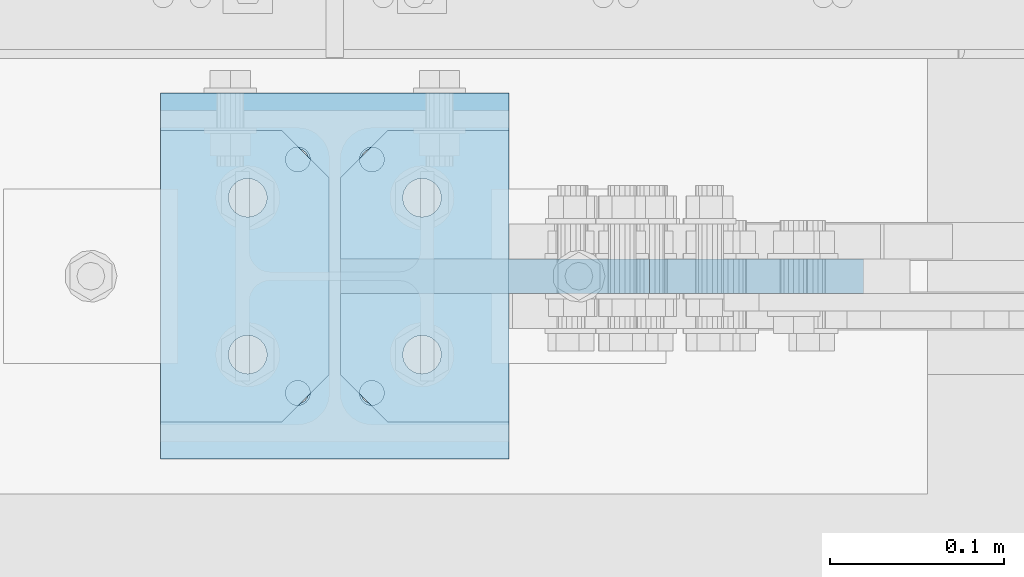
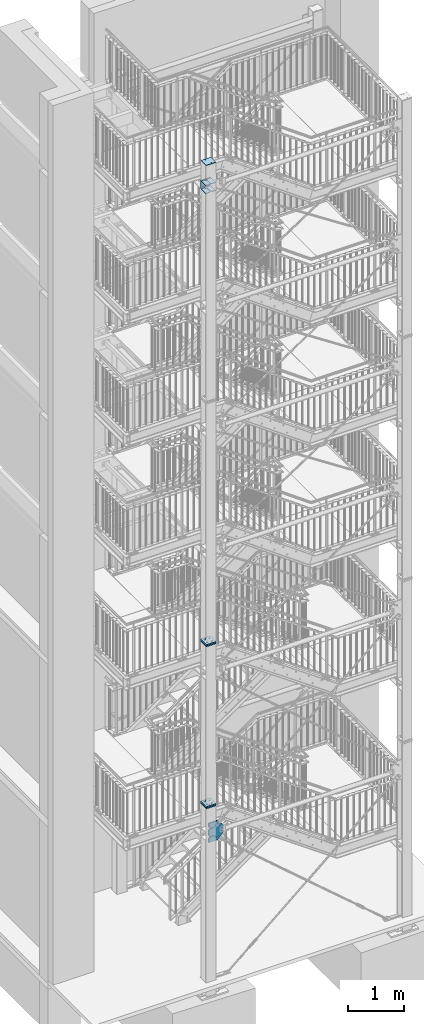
# One storey, part 152 of 831: 11 plates, 60 openings.
"""IFC2X3 building model written with IfcOpenShell, lengths in millimetres."""

from ifc_helpers import new_model, entity, si_unit, converted_unit, point, frame, frame_2d, origin, origin_with_axes, origin_2d_with_axis, place, context, project, spatial, polyline, circle_curve, line_curve, trimmed, segment, composite_curve, circle, outline, extrude, material, layer, layer_set, element, save


model = new_model("IFC2X3")

# Units and contexts
model_context = context("Model", 3, precision=1e-09, world=origin_with_axes())
ifc_project = project(units=[si_unit("LENGTHUNIT", "METRE", prefix="MILLI"), si_unit("AREAUNIT", "SQUARE_METRE"), si_unit("VOLUMEUNIT", "CUBIC_METRE"), converted_unit("PLANEANGLEUNIT", "DEGREE", entity("IfcPlaneAngleMeasure", 0.01745329), si_unit("PLANEANGLEUNIT", "RADIAN"), dimensions=[0, 0, 0, 0, 0, 0, 0])], contexts=[model_context])

# Site, building, storey
site_placement = place(None, origin_with_axes())
site = spatial("IfcSite", under=ifc_project, at=site_placement, Name="Site", CompositionType="ELEMENT")
building_placement = place(site_placement, origin_with_axes())
building = spatial("IfcBuilding", under=site, at=building_placement, Name="Struktur 1", CompositionType="ELEMENT")
storey_placement = place(building_placement, origin_with_axes())
storey = spatial("IfcBuildingStorey", under=building, at=storey_placement, Name="Default Storey", CompositionType="ELEMENT", Elevation=0.0)

# Plate, openings
ifc_material = material(Name="S235JR")
ifc_layer_1 = layer(ifc_material, 25.0)
ifc_layer_set_1 = layer_set([ifc_layer_1], Name="S235JR")
plate_1_placement = place(None, frame((4856.713402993, 4366.736971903, 4150.0), z_axis=(0.0, 0.0, -1.0), x_axis=(0.0, 1.0, 0.0)))
plate_1 = element("IfcPlate", 1, at=plate_1_placement, inside=storey, material=ifc_layer_set_1, Name="Endplate#1", ObjectType="Endplate#1", context=model_context, shape_type="SweptSolid", body=[
    extrude(outline(polyline([(-105.0, -100.0), (105.0, -100.0), (105.0, 100.0), (-105.0, 100.0), (-105.0, -100.0)])), origin_with_axes(), (0.0, 0.0, 1.0), 25.0),
])
opening_1_placement = place(plate_1_placement, frame((67.0, 21.25, -0.5), z_axis=(0.0, 0.0, 1.0), x_axis=(1.0, 0.0, 0.0)))
element("IfcOpeningElement", 2, at=opening_1_placement, cuts=plate_1, ObjectType="Opening", context=model_context, shape_type="SweptSolid", body=[
    extrude(circle(Radius=7.001, at=origin_2d_with_axis()), origin(), (0.0, 0.0, 1.0), 26.0),
])
opening_2_placement = place(plate_1_placement, frame((-67.0, 21.25, -0.5), z_axis=(0.0, 0.0, 1.0), x_axis=(1.0, 0.0, 0.0)))
element("IfcOpeningElement", 3, at=opening_2_placement, cuts=plate_1, ObjectType="Opening", context=model_context, shape_type="SweptSolid", body=[
    extrude(circle(Radius=7.001, at=origin_2d_with_axis()), origin(), (0.0, 0.0, 1.0), 26.0),
])
opening_3_placement = place(plate_1_placement, frame((-67.0, -21.25, -0.5), z_axis=(0.0, 0.0, 1.0), x_axis=(1.0, 0.0, 0.0)))
element("IfcOpeningElement", 4, at=opening_3_placement, cuts=plate_1, ObjectType="Opening", context=model_context, shape_type="SweptSolid", body=[
    extrude(circle(Radius=7.001, at=origin_2d_with_axis()), origin(), (0.0, 0.0, 1.0), 26.0),
])
opening_4_placement = place(plate_1_placement, frame((67.0, -21.25, -0.5), z_axis=(0.0, 0.0, 1.0), x_axis=(1.0, 0.0, 0.0)))
element("IfcOpeningElement", 5, at=opening_4_placement, cuts=plate_1, ObjectType="Opening", context=model_context, shape_type="SweptSolid", body=[
    extrude(circle(Radius=7.001, at=origin_2d_with_axis()), origin(), (0.0, 0.0, 1.0), 26.0),
])
opening_5_placement = place(plate_1_placement, frame((45.0, -38.999, 25.5), z_axis=(0.0, 0.0, 1.0), x_axis=(1.0, 0.0, 0.0)))
element("IfcOpeningElement", 6, at=opening_5_placement, cuts=plate_1, ObjectType="Opening", context=model_context, shape_type="SweptSolid", body=[
    extrude(circle(Radius=11.001, at=frame_2d((0.0, -11.001), x_axis=(1.0, 0.0))), origin(), (0.0, 0.0, -1.0), 26.0),
])
opening_6_placement = place(plate_1_placement, frame((-45.0, -38.999, 25.5), z_axis=(0.0, 0.0, 1.0), x_axis=(1.0, 0.0, 0.0)))
element("IfcOpeningElement", 7, at=opening_6_placement, cuts=plate_1, ObjectType="Opening", context=model_context, shape_type="SweptSolid", body=[
    extrude(circle(Radius=11.001, at=frame_2d((0.0, -11.001), x_axis=(1.0, 0.0))), origin(), (0.0, 0.0, -1.0), 26.0),
])
opening_7_placement = place(plate_1_placement, frame((45.0, 61.001, 25.5), z_axis=(0.0, 0.0, 1.0), x_axis=(1.0, 0.0, 0.0)))
element("IfcOpeningElement", 8, at=opening_7_placement, cuts=plate_1, ObjectType="Opening", context=model_context, shape_type="SweptSolid", body=[
    extrude(circle(Radius=11.001, at=frame_2d((0.0, -11.001), x_axis=(1.0, 0.0))), origin(), (0.0, 0.0, -1.0), 26.0),
])
opening_8_placement = place(plate_1_placement, frame((-45.0, 61.001, 25.5), z_axis=(0.0, 0.0, 1.0), x_axis=(1.0, 0.0, 0.0)))
element("IfcOpeningElement", 9, at=opening_8_placement, cuts=plate_1, ObjectType="Opening", context=model_context, shape_type="SweptSolid", body=[
    extrude(circle(Radius=11.001, at=frame_2d((0.0, -11.001), x_axis=(1.0, 0.0))), origin(), (0.0, 0.0, -1.0), 26.0),
])

plate_2_placement = place(None, frame((4856.713402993, 4366.736971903, 4175.0), z_axis=(0.0, 0.0, -1.0), x_axis=(0.0, 1.0, 0.0)))
plate_2 = element("IfcPlate", 10, at=plate_2_placement, inside=storey, material=ifc_layer_set_1, Name="Endplate#2", ObjectType="Endplate#2", context=model_context, shape_type="SweptSolid", body=[
    extrude(outline(polyline([(-105.0, -100.0), (105.0, -100.0), (105.0, 100.0), (-105.0, 100.0), (-105.0, -100.0)])), origin_with_axes(), (0.0, 0.0, 1.0), 25.0),
])
opening_9_placement = place(plate_2_placement, frame((67.0, 21.25, 25.5), z_axis=(0.0, 0.0, -1.0), x_axis=(-1.0, 0.0, 0.0)))
element("IfcOpeningElement", 11, at=opening_9_placement, cuts=plate_2, ObjectType="Opening", context=model_context, shape_type="SweptSolid", body=[
    extrude(circle(Radius=7.001, at=origin_2d_with_axis()), origin(), (0.0, 0.0, 1.0), 26.0),
])
opening_10_placement = place(plate_2_placement, frame((-67.0, 21.25, 25.5), z_axis=(0.0, 0.0, -1.0), x_axis=(-1.0, 0.0, 0.0)))
element("IfcOpeningElement", 12, at=opening_10_placement, cuts=plate_2, ObjectType="Opening", context=model_context, shape_type="SweptSolid", body=[
    extrude(circle(Radius=7.001, at=origin_2d_with_axis()), origin(), (0.0, 0.0, 1.0), 26.0),
])
opening_11_placement = place(plate_2_placement, frame((-67.0, -21.25, 25.5), z_axis=(0.0, 0.0, -1.0), x_axis=(-1.0, 0.0, 0.0)))
element("IfcOpeningElement", 13, at=opening_11_placement, cuts=plate_2, ObjectType="Opening", context=model_context, shape_type="SweptSolid", body=[
    extrude(circle(Radius=7.001, at=origin_2d_with_axis()), origin(), (0.0, 0.0, 1.0), 26.0),
])
opening_12_placement = place(plate_2_placement, frame((67.0, -21.25, 25.5), z_axis=(0.0, 0.0, -1.0), x_axis=(-1.0, 0.0, 0.0)))
element("IfcOpeningElement", 14, at=opening_12_placement, cuts=plate_2, ObjectType="Opening", context=model_context, shape_type="SweptSolid", body=[
    extrude(circle(Radius=7.001, at=origin_2d_with_axis()), origin(), (0.0, 0.0, 1.0), 26.0),
])
opening_13_placement = place(plate_2_placement, frame((45.0, 61.001, 25.5), z_axis=(0.0, 0.0, 1.0), x_axis=(1.0, 0.0, 0.0)))
element("IfcOpeningElement", 15, at=opening_13_placement, cuts=plate_2, ObjectType="Opening", context=model_context, shape_type="SweptSolid", body=[
    extrude(circle(Radius=11.001, at=frame_2d((0.0, -11.001), x_axis=(1.0, 0.0))), origin(), (0.0, 0.0, -1.0), 26.0),
])
opening_14_placement = place(plate_2_placement, frame((-45.0, 61.001, 25.5), z_axis=(0.0, 0.0, 1.0), x_axis=(1.0, 0.0, 0.0)))
element("IfcOpeningElement", 16, at=opening_14_placement, cuts=plate_2, ObjectType="Opening", context=model_context, shape_type="SweptSolid", body=[
    extrude(circle(Radius=11.001, at=frame_2d((0.0, -11.001), x_axis=(1.0, 0.0))), origin(), (0.0, 0.0, -1.0), 26.0),
])
opening_15_placement = place(plate_2_placement, frame((45.0, -38.999, 25.5), z_axis=(0.0, 0.0, 1.0), x_axis=(1.0, 0.0, 0.0)))
element("IfcOpeningElement", 17, at=opening_15_placement, cuts=plate_2, ObjectType="Opening", context=model_context, shape_type="SweptSolid", body=[
    extrude(circle(Radius=11.001, at=frame_2d((0.0, -11.001), x_axis=(1.0, 0.0))), origin(), (0.0, 0.0, -1.0), 26.0),
])
opening_16_placement = place(plate_2_placement, frame((-45.0, -38.999, 25.5), z_axis=(0.0, 0.0, 1.0), x_axis=(1.0, 0.0, 0.0)))
element("IfcOpeningElement", 18, at=opening_16_placement, cuts=plate_2, ObjectType="Opening", context=model_context, shape_type="SweptSolid", body=[
    extrude(circle(Radius=11.001, at=frame_2d((0.0, -11.001), x_axis=(1.0, 0.0))), origin(), (0.0, 0.0, -1.0), 26.0),
])

plate_3_placement = place(None, frame((4856.713402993, 4366.736971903, 7650.0), z_axis=(0.0, 0.0, -1.0), x_axis=(0.0, 1.0, 0.0)))
plate_3 = element("IfcPlate", 19, at=plate_3_placement, inside=storey, material=ifc_layer_set_1, Name="Endplate#1", ObjectType="Endplate#1", context=model_context, shape_type="SweptSolid", body=[
    extrude(outline(polyline([(-105.0, -100.0), (105.0, -100.0), (105.0, 100.0), (-105.0, 100.0), (-105.0, -100.0)])), origin_with_axes(), (0.0, 0.0, 1.0), 25.0),
])
opening_17_placement = place(plate_3_placement, frame((67.0, 21.25, -0.5), z_axis=(0.0, 0.0, 1.0), x_axis=(1.0, 0.0, 0.0)))
element("IfcOpeningElement", 20, at=opening_17_placement, cuts=plate_3, ObjectType="Opening", context=model_context, shape_type="SweptSolid", body=[
    extrude(circle(Radius=7.001, at=origin_2d_with_axis()), origin(), (0.0, 0.0, 1.0), 26.0),
])
opening_18_placement = place(plate_3_placement, frame((-67.0, 21.25, -0.5), z_axis=(0.0, 0.0, 1.0), x_axis=(1.0, 0.0, 0.0)))
element("IfcOpeningElement", 21, at=opening_18_placement, cuts=plate_3, ObjectType="Opening", context=model_context, shape_type="SweptSolid", body=[
    extrude(circle(Radius=7.001, at=origin_2d_with_axis()), origin(), (0.0, 0.0, 1.0), 26.0),
])
opening_19_placement = place(plate_3_placement, frame((-67.0, -21.25, -0.5), z_axis=(0.0, 0.0, 1.0), x_axis=(1.0, 0.0, 0.0)))
element("IfcOpeningElement", 22, at=opening_19_placement, cuts=plate_3, ObjectType="Opening", context=model_context, shape_type="SweptSolid", body=[
    extrude(circle(Radius=7.001, at=origin_2d_with_axis()), origin(), (0.0, 0.0, 1.0), 26.0),
])
opening_20_placement = place(plate_3_placement, frame((67.0, -21.25, -0.5), z_axis=(0.0, 0.0, 1.0), x_axis=(1.0, 0.0, 0.0)))
element("IfcOpeningElement", 23, at=opening_20_placement, cuts=plate_3, ObjectType="Opening", context=model_context, shape_type="SweptSolid", body=[
    extrude(circle(Radius=7.001, at=origin_2d_with_axis()), origin(), (0.0, 0.0, 1.0), 26.0),
])
opening_21_placement = place(plate_3_placement, frame((45.0, 61.001, 25.5), z_axis=(0.0, 0.0, 1.0), x_axis=(1.0, 0.0, 0.0)))
element("IfcOpeningElement", 24, at=opening_21_placement, cuts=plate_3, ObjectType="Opening", context=model_context, shape_type="SweptSolid", body=[
    extrude(circle(Radius=11.001, at=frame_2d((0.0, -11.001), x_axis=(1.0, 0.0))), origin(), (0.0, 0.0, -1.0), 26.0),
])
opening_22_placement = place(plate_3_placement, frame((-45.0, 61.001, 25.5), z_axis=(0.0, 0.0, 1.0), x_axis=(1.0, 0.0, 0.0)))
element("IfcOpeningElement", 25, at=opening_22_placement, cuts=plate_3, ObjectType="Opening", context=model_context, shape_type="SweptSolid", body=[
    extrude(circle(Radius=11.001, at=frame_2d((0.0, -11.001), x_axis=(1.0, 0.0))), origin(), (0.0, 0.0, -1.0), 26.0),
])
opening_23_placement = place(plate_3_placement, frame((45.0, -38.999, 25.5), z_axis=(0.0, 0.0, 1.0), x_axis=(1.0, 0.0, 0.0)))
element("IfcOpeningElement", 26, at=opening_23_placement, cuts=plate_3, ObjectType="Opening", context=model_context, shape_type="SweptSolid", body=[
    extrude(circle(Radius=11.001, at=frame_2d((0.0, -11.001), x_axis=(1.0, 0.0))), origin(), (0.0, 0.0, -1.0), 26.0),
])
opening_24_placement = place(plate_3_placement, frame((-45.0, -38.999, 25.5), z_axis=(0.0, 0.0, 1.0), x_axis=(1.0, 0.0, 0.0)))
element("IfcOpeningElement", 27, at=opening_24_placement, cuts=plate_3, ObjectType="Opening", context=model_context, shape_type="SweptSolid", body=[
    extrude(circle(Radius=11.001, at=frame_2d((0.0, -11.001), x_axis=(1.0, 0.0))), origin(), (0.0, 0.0, -1.0), 26.0),
])

plate_4_placement = place(None, frame((4856.713402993, 4366.736971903, 7675.0), z_axis=(0.0, 0.0, -1.0), x_axis=(0.0, 1.0, 0.0)))
plate_4 = element("IfcPlate", 28, at=plate_4_placement, inside=storey, material=ifc_layer_set_1, Name="Endplate#2", ObjectType="Endplate#2", context=model_context, shape_type="SweptSolid", body=[
    extrude(outline(polyline([(-105.0, -100.0), (105.0, -100.0), (105.0, 100.0), (-105.0, 100.0), (-105.0, -100.0)])), origin_with_axes(), (0.0, 0.0, 1.0), 25.0),
])
opening_25_placement = place(plate_4_placement, frame((67.0, 21.25, 25.5), z_axis=(0.0, 0.0, -1.0), x_axis=(-1.0, 0.0, 0.0)))
element("IfcOpeningElement", 29, at=opening_25_placement, cuts=plate_4, ObjectType="Opening", context=model_context, shape_type="SweptSolid", body=[
    extrude(circle(Radius=7.001, at=origin_2d_with_axis()), origin(), (0.0, 0.0, 1.0), 26.0),
])
opening_26_placement = place(plate_4_placement, frame((-67.0, 21.25, 25.5), z_axis=(0.0, 0.0, -1.0), x_axis=(-1.0, 0.0, 0.0)))
element("IfcOpeningElement", 30, at=opening_26_placement, cuts=plate_4, ObjectType="Opening", context=model_context, shape_type="SweptSolid", body=[
    extrude(circle(Radius=7.001, at=origin_2d_with_axis()), origin(), (0.0, 0.0, 1.0), 26.0),
])
opening_27_placement = place(plate_4_placement, frame((-67.0, -21.25, 25.5), z_axis=(0.0, 0.0, -1.0), x_axis=(-1.0, 0.0, 0.0)))
element("IfcOpeningElement", 31, at=opening_27_placement, cuts=plate_4, ObjectType="Opening", context=model_context, shape_type="SweptSolid", body=[
    extrude(circle(Radius=7.001, at=origin_2d_with_axis()), origin(), (0.0, 0.0, 1.0), 26.0),
])
opening_28_placement = place(plate_4_placement, frame((67.0, -21.25, 25.5), z_axis=(0.0, 0.0, -1.0), x_axis=(-1.0, 0.0, 0.0)))
element("IfcOpeningElement", 32, at=opening_28_placement, cuts=plate_4, ObjectType="Opening", context=model_context, shape_type="SweptSolid", body=[
    extrude(circle(Radius=7.001, at=origin_2d_with_axis()), origin(), (0.0, 0.0, 1.0), 26.0),
])
opening_29_placement = place(plate_4_placement, frame((45.0, 61.001, 25.5), z_axis=(0.0, 0.0, 1.0), x_axis=(1.0, 0.0, 0.0)))
element("IfcOpeningElement", 33, at=opening_29_placement, cuts=plate_4, ObjectType="Opening", context=model_context, shape_type="SweptSolid", body=[
    extrude(circle(Radius=11.001, at=frame_2d((0.0, -11.001), x_axis=(1.0, 0.0))), origin(), (0.0, 0.0, -1.0), 26.0),
])
opening_30_placement = place(plate_4_placement, frame((-45.0, 61.001, 25.5), z_axis=(0.0, 0.0, 1.0), x_axis=(1.0, 0.0, 0.0)))
element("IfcOpeningElement", 34, at=opening_30_placement, cuts=plate_4, ObjectType="Opening", context=model_context, shape_type="SweptSolid", body=[
    extrude(circle(Radius=11.001, at=frame_2d((0.0, -11.001), x_axis=(1.0, 0.0))), origin(), (0.0, 0.0, -1.0), 26.0),
])
opening_31_placement = place(plate_4_placement, frame((45.0, -38.999, 25.5), z_axis=(0.0, 0.0, 1.0), x_axis=(1.0, 0.0, 0.0)))
element("IfcOpeningElement", 35, at=opening_31_placement, cuts=plate_4, ObjectType="Opening", context=model_context, shape_type="SweptSolid", body=[
    extrude(circle(Radius=11.001, at=frame_2d((0.0, -11.001), x_axis=(1.0, 0.0))), origin(), (0.0, 0.0, -1.0), 26.0),
])
opening_32_placement = place(plate_4_placement, frame((-45.0, -38.999, 25.5), z_axis=(0.0, 0.0, 1.0), x_axis=(1.0, 0.0, 0.0)))
element("IfcOpeningElement", 36, at=opening_32_placement, cuts=plate_4, ObjectType="Opening", context=model_context, shape_type="SweptSolid", body=[
    extrude(circle(Radius=11.001, at=frame_2d((0.0, -11.001), x_axis=(1.0, 0.0))), origin(), (0.0, 0.0, -1.0), 26.0),
])

ifc_layer_2 = layer(ifc_material, 10.0)
ifc_layer_set_2 = layer_set([ifc_layer_2], Name="S235JR")
plate_5_placement = place(None, frame((4856.713402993, 4471.736971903, 17498.999999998), z_axis=(0.0, -1.0, 0.0), x_axis=(0.0, 0.0, -1.0)))
plate_5 = element("IfcPlate", 37, at=plate_5_placement, inside=storey, material=ifc_layer_set_2, Name="Endplate", ObjectType="Endplate", context=model_context, shape_type="SweptSolid", body=[
    extrude(outline(polyline([(-90.0, -100.0), (90.0, -100.0), (90.0, 100.0), (-90.0, 100.0), (-90.0, -100.0)])), origin_with_axes(), (0.0, 0.0, 1.0), 10.0),
])
opening_33_placement = place(plate_5_placement, frame((-67.0, -21.25, 10.5), z_axis=(0.0, 0.0, -1.0), x_axis=(1.0, 0.0, 0.0)))
element("IfcOpeningElement", 38, at=opening_33_placement, cuts=plate_5, ObjectType="Opening", context=model_context, shape_type="SweptSolid", body=[
    extrude(circle(Radius=6.001, at=origin_2d_with_axis()), origin(), (0.0, 0.0, 1.0), 11.0),
])
opening_34_placement = place(plate_5_placement, frame((67.0, -21.25, 10.5), z_axis=(0.0, 0.0, -1.0), x_axis=(1.0, 0.0, 0.0)))
element("IfcOpeningElement", 39, at=opening_34_placement, cuts=plate_5, ObjectType="Opening", context=model_context, shape_type="SweptSolid", body=[
    extrude(circle(Radius=6.001, at=origin_2d_with_axis()), origin(), (0.0, 0.0, 1.0), 11.0),
])
opening_35_placement = place(plate_5_placement, frame((67.0, 21.25, 10.5), z_axis=(0.0, 0.0, -1.0), x_axis=(1.0, 0.0, 0.0)))
element("IfcOpeningElement", 40, at=opening_35_placement, cuts=plate_5, ObjectType="Opening", context=model_context, shape_type="SweptSolid", body=[
    extrude(circle(Radius=6.001, at=origin_2d_with_axis()), origin(), (0.0, 0.0, 1.0), 11.0),
])
opening_36_placement = place(plate_5_placement, frame((-67.0, 21.25, 10.5), z_axis=(0.0, 0.0, -1.0), x_axis=(1.0, 0.0, 0.0)))
element("IfcOpeningElement", 41, at=opening_36_placement, cuts=plate_5, ObjectType="Opening", context=model_context, shape_type="SweptSolid", body=[
    extrude(circle(Radius=6.001, at=origin_2d_with_axis()), origin(), (0.0, 0.0, 1.0), 11.0),
])
opening_37_placement = place(plate_5_placement, frame((-45.0, -60.0, 10.5), z_axis=(0.0, 0.0, -1.0), x_axis=(0.0, -1.0, 0.0)))
element("IfcOpeningElement", 42, at=opening_37_placement, cuts=plate_5, ObjectType="Opening", context=model_context, shape_type="SweptSolid", body=[
    extrude(circle(Radius=9.001, at=origin_2d_with_axis()), origin(), (0.0, 0.0, 1.0), 11.0),
])
opening_38_placement = place(plate_5_placement, frame((45.0, 60.0, 10.5), z_axis=(0.0, 0.0, -1.0), x_axis=(0.0, 1.0, 0.0)))
element("IfcOpeningElement", 43, at=opening_38_placement, cuts=plate_5, ObjectType="Opening", context=model_context, shape_type="SweptSolid", body=[
    extrude(circle(Radius=9.001, at=origin_2d_with_axis()), origin(), (0.0, 0.0, 1.0), 11.0),
])
opening_39_placement = place(plate_5_placement, frame((45.0, -60.0, 10.5), z_axis=(0.0, 0.0, -1.0), x_axis=(0.0, -1.0, 0.0)))
element("IfcOpeningElement", 44, at=opening_39_placement, cuts=plate_5, ObjectType="Opening", context=model_context, shape_type="SweptSolid", body=[
    extrude(circle(Radius=9.001, at=origin_2d_with_axis()), origin(), (0.0, 0.0, 1.0), 11.0),
])
opening_40_placement = place(plate_5_placement, frame((-45.0, 60.0, 10.5), z_axis=(0.0, 0.0, -1.0), x_axis=(0.0, 1.0, 0.0)))
element("IfcOpeningElement", 45, at=opening_40_placement, cuts=plate_5, ObjectType="Opening", context=model_context, shape_type="SweptSolid", body=[
    extrude(circle(Radius=9.001, at=origin_2d_with_axis()), origin(), (0.0, 0.0, 1.0), 11.0),
])

plate_6_placement = place(None, frame((4956.713402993, 4450.236971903, 17573.999999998), z_axis=(0.0, 0.0, 1.0), x_axis=(-1.0, 0.0, 0.0)))
plate_6 = element("IfcPlate", 46, at=plate_6_placement, inside=storey, material=ifc_layer_set_2, Name="Stiffener#1", ObjectType="Stiffener#1", context=model_context, shape_type="SweptSolid", body=[
    extrude(outline(polyline([(0.0, 0.0), (96.75, 0.0), (96.75, 167.0), (0.0, 167.0), (0.0, 0.0)])), origin_with_axes(), (0.0, 0.0, 1.0), 10.0),
])
opening_41_placement = place(plate_6_placement, frame((0.0, 0.0, -0.01), z_axis=(0.0, 0.0, 1.0), x_axis=(1.0, 0.0, 0.0)))
element("IfcOpeningElement", 47, at=opening_41_placement, cuts=plate_6, ObjectType="Opening", context=model_context, shape_type="SweptSolid", body=[
    extrude(outline(polyline([(96.75, 167.0), (69.75, 167.0), (96.75, 140.0), (96.75, 167.0)])), origin(), (0.0, 0.0, 1.0), 10.02),
])
opening_42_placement = place(plate_6_placement, frame((0.0, 0.0, -0.01), z_axis=(0.0, 0.0, 1.0), x_axis=(1.0, 0.0, 0.0)))
element("IfcOpeningElement", 48, at=opening_42_placement, cuts=plate_6, ObjectType="Opening", context=model_context, shape_type="SweptSolid", body=[
    extrude(outline(polyline([(96.75, 0.0), (96.75, 27.0), (69.75, 0.0), (96.75, 0.0)])), origin(), (0.0, 0.0, 1.0), 10.02),
])

plate_7_placement = place(None, frame((4853.463402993, 4450.236971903, 17573.999999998), z_axis=(0.0, 0.0, 1.0), x_axis=(-1.0, 0.0, 0.0)))
plate_7 = element("IfcPlate", 49, at=plate_7_placement, inside=storey, material=ifc_layer_set_2, Name="Stiffener#2", ObjectType="Stiffener#2", context=model_context, shape_type="SweptSolid", body=[
    extrude(outline(polyline([(0.0, 0.0), (96.75, 0.0), (96.75, 167.0), (0.0, 167.0), (0.0, 0.0)])), origin_with_axes(), (0.0, 0.0, 1.0), 10.0),
])
opening_43_placement = place(plate_7_placement, frame((0.0, 0.0, -0.01), z_axis=(0.0, 0.0, 1.0), x_axis=(1.0, 0.0, 0.0)))
element("IfcOpeningElement", 50, at=opening_43_placement, cuts=plate_7, ObjectType="Opening", context=model_context, shape_type="SweptSolid", body=[
    extrude(outline(polyline([(0.0, 167.0), (0.0, 140.0), (27.0, 167.0), (0.0, 167.0)])), origin(), (0.0, 0.0, 1.0), 10.02),
])
opening_44_placement = place(plate_7_placement, frame((0.0, 0.0, -0.01), z_axis=(0.0, 0.0, 1.0), x_axis=(1.0, 0.0, 0.0)))
element("IfcOpeningElement", 51, at=opening_44_placement, cuts=plate_7, ObjectType="Opening", context=model_context, shape_type="SweptSolid", body=[
    extrude(outline(polyline([(0.0, 0.0), (27.0, 0.0), (0.0, 27.0), (0.0, 0.0)])), origin(), (0.0, 0.0, 1.0), 10.02),
])

plate_8_placement = place(None, frame((4859.963402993, 4450.236971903, 17413.999999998), z_axis=(0.0, 0.0, -1.0), x_axis=(1.0, 0.0, 0.0)))
plate_8 = element("IfcPlate", 52, at=plate_8_placement, inside=storey, material=ifc_layer_set_2, Name="Stiffener#3", ObjectType="Stiffener#3", context=model_context, shape_type="SweptSolid", body=[
    extrude(outline(polyline([(0.0, 0.0), (96.75, 0.0), (96.75, 167.0), (0.0, 167.0), (0.0, 0.0)])), origin_with_axes(), (0.0, 0.0, 1.0), 10.0),
])
opening_45_placement = place(plate_8_placement, frame((0.0, 0.0, -0.01), z_axis=(0.0, 0.0, 1.0), x_axis=(1.0, 0.0, 0.0)))
element("IfcOpeningElement", 53, at=opening_45_placement, cuts=plate_8, ObjectType="Opening", context=model_context, shape_type="SweptSolid", body=[
    extrude(outline(polyline([(0.0, 167.0), (0.0, 140.0), (27.0, 167.0), (0.0, 167.0)])), origin(), (0.0, 0.0, 1.0), 10.02),
])
opening_46_placement = place(plate_8_placement, frame((0.0, 0.0, -0.01), z_axis=(0.0, 0.0, 1.0), x_axis=(1.0, 0.0, 0.0)))
element("IfcOpeningElement", 54, at=opening_46_placement, cuts=plate_8, ObjectType="Opening", context=model_context, shape_type="SweptSolid", body=[
    extrude(outline(polyline([(0.0, 0.0), (27.0, 0.0), (0.0, 27.0), (0.0, 0.0)])), origin(), (0.0, 0.0, 1.0), 10.02),
])

plate_9_placement = place(None, frame((4756.713402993, 4450.236971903, 17413.999999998), z_axis=(0.0, 0.0, -1.0), x_axis=(1.0, 0.0, 0.0)))
plate_9 = element("IfcPlate", 55, at=plate_9_placement, inside=storey, material=ifc_layer_set_2, Name="Stiffener#4", ObjectType="Stiffener#4", context=model_context, shape_type="SweptSolid", body=[
    extrude(outline(polyline([(0.0, 0.0), (96.75, 0.0), (96.75, 167.0), (0.0, 167.0), (0.0, 0.0)])), origin_with_axes(), (0.0, 0.0, 1.0), 10.0),
])
opening_47_placement = place(plate_9_placement, frame((0.0, 0.0, -0.01), z_axis=(0.0, 0.0, 1.0), x_axis=(1.0, 0.0, 0.0)))
element("IfcOpeningElement", 56, at=opening_47_placement, cuts=plate_9, ObjectType="Opening", context=model_context, shape_type="SweptSolid", body=[
    extrude(outline(polyline([(96.75, 167.0), (69.75, 167.0), (96.75, 140.0), (96.75, 167.0)])), origin(), (0.0, 0.0, 1.0), 10.02),
])
opening_48_placement = place(plate_9_placement, frame((0.0, 0.0, -0.01), z_axis=(0.0, 0.0, 1.0), x_axis=(1.0, 0.0, 0.0)))
element("IfcOpeningElement", 57, at=opening_48_placement, cuts=plate_9, ObjectType="Opening", context=model_context, shape_type="SweptSolid", body=[
    extrude(outline(polyline([(96.75, 0.0), (96.75, 27.0), (69.75, 0.0), (96.75, 0.0)])), origin(), (0.0, 0.0, 1.0), 10.02),
])

plate_10_placement = place(None, frame((4856.713402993, 4366.736971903, 18013.999999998), z_axis=(0.0, 0.0, 1.0), x_axis=(1.0, 0.0, 0.0)))
plate_10 = element("IfcPlate", 58, at=plate_10_placement, inside=storey, material=ifc_layer_set_2, Name="-", ObjectType="-", context=model_context, shape_type="SweptSolid", body=[
    extrude(outline(polyline([(-100.0, -90.0), (100.0, -90.0), (100.0, 90.0), (-100.0, 90.0), (-100.0, -90.0)])), origin_with_axes(), (0.0, 0.0, 1.0), 10.0),
])
opening_49_placement = place(plate_10_placement, frame((21.25, 67.0, 10.5), z_axis=(0.0, 0.0, -1.0), x_axis=(0.0, 1.0, 0.0)))
element("IfcOpeningElement", 59, at=opening_49_placement, cuts=plate_10, ObjectType="Opening", context=model_context, shape_type="SweptSolid", body=[
    extrude(circle(Radius=6.001, at=origin_2d_with_axis()), origin(), (0.0, 0.0, 1.0), 11.0),
])
opening_50_placement = place(plate_10_placement, frame((21.25, -67.0, 10.5), z_axis=(0.0, 0.0, -1.0), x_axis=(0.0, 1.0, 0.0)))
element("IfcOpeningElement", 60, at=opening_50_placement, cuts=plate_10, ObjectType="Opening", context=model_context, shape_type="SweptSolid", body=[
    extrude(circle(Radius=6.001, at=origin_2d_with_axis()), origin(), (0.0, 0.0, 1.0), 11.0),
])
opening_51_placement = place(plate_10_placement, frame((-21.25, -67.0, 10.5), z_axis=(0.0, 0.0, -1.0), x_axis=(0.0, 1.0, 0.0)))
element("IfcOpeningElement", 61, at=opening_51_placement, cuts=plate_10, ObjectType="Opening", context=model_context, shape_type="SweptSolid", body=[
    extrude(circle(Radius=6.001, at=origin_2d_with_axis()), origin(), (0.0, 0.0, 1.0), 11.0),
])
opening_52_placement = place(plate_10_placement, frame((-21.25, 67.0, 10.5), z_axis=(0.0, 0.0, -1.0), x_axis=(0.0, 1.0, 0.0)))
element("IfcOpeningElement", 62, at=opening_52_placement, cuts=plate_10, ObjectType="Opening", context=model_context, shape_type="SweptSolid", body=[
    extrude(circle(Radius=6.001, at=origin_2d_with_axis()), origin(), (0.0, 0.0, 1.0), 11.0),
])

ifc_layer_3 = layer(ifc_material, 20.0)
ifc_layer_set_3 = layer_set([ifc_layer_3], Name="S235JR")
plate_11_placement = place(None, frame((4859.963402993, 4356.736971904, 3302.430347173), z_axis=(0.0, 1.0, 0.0), x_axis=(0.0, 0.0, 1.0)))
plate_11 = element("IfcPlate", 63, at=plate_11_placement, inside=storey, material=ifc_layer_set_3, Name="-", ObjectType="-", context=model_context, shape_type="SweptSolid", body=[
    extrude(outline(polyline([(0.0, 0.0), (420.206365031, 0.0), (420.206365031, 177.249749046), (279.569648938, 300.0), (139.569648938, 300.0), (0.0, 181.139563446), (0.0, 0.0)])), origin_with_axes(), (0.0, 0.0, 1.0), 20.0),
])
opening_53_placement = place(plate_11_placement, frame((0.0, 0.0, -0.1), z_axis=(0.0, 0.0, 1.0), x_axis=(0.0, -1.0, 0.0)))
element("IfcOpeningElement", 64, at=opening_53_placement, cuts=plate_11, ObjectType="Opening", context=model_context, shape_type="SweptSolid", body=[
    extrude(outline(composite_curve([segment(trimmed(line_curve((20.001, 145.570652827), (-1.0, 0.0), 20.001414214), [point((20.001, 145.570652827))], [point((-0.000414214, 145.570652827))], True, "CARTESIAN"), True, "CONTINUOUS"), segment(trimmed(line_curve((-0.000414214, 145.570652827), (-0.707106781, -0.707106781), 28.284271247), [point((-0.000414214, 145.570652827))], [point((-20.000414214, 125.570652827))], True, "CARTESIAN"), True, "CONTINUOUS"), segment(trimmed(line_curve((-20.000414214, 125.570652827), (-1.0, 0.0), 77.749585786), [point((-20.000414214, 125.570652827))], [point((-97.75, 125.570652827))], True, "CARTESIAN"), True, "CONTINUOUS"), segment(trimmed(circle_curve(frame_2d((-97.75, 119.569652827), x_axis=(1.0, 0.0)), 6.001), [point((-97.75, 125.570652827))], [point((-97.75, 113.568652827))], True, "CARTESIAN"), True, "CONTINUOUS"), segment(trimmed(line_curve((-97.75, 113.568652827), (1.0, 0.0), 77.749585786), [point((-97.75, 113.568652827))], [point((-20.000414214, 113.568652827))], True, "CARTESIAN"), True, "CONTINUOUS"), segment(trimmed(line_curve((-20.000414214, 113.568652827), (0.707106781, -0.707106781), 28.284271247), [point((-20.000414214, 113.568652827))], [point((-0.000414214, 93.568652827))], True, "CARTESIAN"), True, "CONTINUOUS"), segment(trimmed(line_curve((-0.000414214, 93.568652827), (1.0, 0.0), 20.001414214), [point((-0.000414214, 93.568652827))], [point((20.001, 93.568652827))], True, "CARTESIAN"), True, "CONTINUOUS"), segment(trimmed(line_curve((20.001, 93.568652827), (0.0, 1.0), 52.002), [point((20.001, 93.568652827))], [point((20.001, 145.570652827))], True, "CARTESIAN"), True, "CONTINUOUS")], self_intersect=False)), origin(), (0.0, 0.0, 1.0), 20.2),
])
opening_54_placement = place(plate_11_placement, frame((0.0, 0.0, -0.1), z_axis=(0.0, 0.0, 1.0), x_axis=(0.0, -1.0, 0.0)))
element("IfcOpeningElement", 65, at=opening_54_placement, cuts=plate_11, ObjectType="Opening", context=model_context, shape_type="SweptSolid", body=[
    extrude(outline(composite_curve([segment(trimmed(line_curve((20.001, 325.570652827), (-1.0, 0.0), 20.001414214), [point((20.001, 325.570652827))], [point((-0.000414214, 325.570652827))], True, "CARTESIAN"), True, "CONTINUOUS"), segment(trimmed(line_curve((-0.000414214, 325.570652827), (-0.707106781, -0.707106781), 28.284271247), [point((-0.000414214, 325.570652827))], [point((-20.000414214, 305.570652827))], True, "CARTESIAN"), True, "CONTINUOUS"), segment(trimmed(line_curve((-20.000414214, 305.570652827), (-1.0, 0.0), 77.749584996), [point((-20.000414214, 305.570652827))], [point((-97.749999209, 305.570652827))], True, "CARTESIAN"), True, "CONTINUOUS"), segment(trimmed(circle_curve(frame_2d((-97.75, 299.569652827), x_axis=(1.0, 0.0)), 6.001), [point((-97.749999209, 305.570652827))], [point((-97.75, 293.568652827))], True, "CARTESIAN"), True, "CONTINUOUS"), segment(trimmed(line_curve((-97.75, 293.568652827), (1.0, 0.0), 77.749585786), [point((-97.75, 293.568652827))], [point((-20.000414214, 293.568652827))], True, "CARTESIAN"), True, "CONTINUOUS"), segment(trimmed(line_curve((-20.000414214, 293.568652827), (0.707106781, -0.707106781), 28.284271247), [point((-20.000414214, 293.568652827))], [point((-0.000414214, 273.568652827))], True, "CARTESIAN"), True, "CONTINUOUS"), segment(trimmed(line_curve((-0.000414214, 273.568652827), (1.0, 0.0), 20.001414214), [point((-0.000414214, 273.568652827))], [point((20.001, 273.568652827))], True, "CARTESIAN"), True, "CONTINUOUS"), segment(trimmed(line_curve((20.001, 273.568652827), (0.0, 1.0), 52.002), [point((20.001, 273.568652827))], [point((20.001, 325.570652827))], True, "CARTESIAN"), True, "CONTINUOUS")], self_intersect=False)), origin(), (0.0, 0.0, 1.0), 20.2),
])
opening_55_placement = place(plate_11_placement, frame((239.569648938, 269.000998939, 20.5), z_axis=(0.0, 0.0, 1.0), x_axis=(1.0, 0.0, 0.0)))
element("IfcOpeningElement", 66, at=opening_55_placement, cuts=plate_11, ObjectType="Opening", context=model_context, shape_type="SweptSolid", body=[
    extrude(circle(Radius=9.001, at=frame_2d((0.0, -9.001), x_axis=(1.0, 0.0))), origin(), (0.0, 0.0, -1.0), 21.0),
])
opening_56_placement = place(plate_11_placement, frame((179.569648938, 269.000998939, 20.5), z_axis=(0.0, 0.0, 1.0), x_axis=(1.0, 0.0, 0.0)))
element("IfcOpeningElement", 67, at=opening_56_placement, cuts=plate_11, ObjectType="Opening", context=model_context, shape_type="SweptSolid", body=[
    extrude(circle(Radius=9.001, at=frame_2d((0.0, -9.001), x_axis=(1.0, 0.0))), origin(), (0.0, 0.0, -1.0), 21.0),
])
opening_57_placement = place(plate_11_placement, frame((346.603005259, 154.971640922, 20.5), z_axis=(0.0, 0.0, -1.0), x_axis=(0.654679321, 0.755906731, 0.0)))
element("IfcOpeningElement", 68, at=opening_57_placement, cuts=plate_11, ObjectType="Opening", context=model_context, shape_type="SweptSolid", body=[
    extrude(circle(Radius=9.001, at=frame_2d((30.0, 0.0), x_axis=(1.0, 0.0))), origin(), (0.0, 0.0, 1.0), 21.0),
])
opening_58_placement = place(plate_11_placement, frame((346.603005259, 154.971640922, 20.5), z_axis=(0.0, 0.0, -1.0), x_axis=(0.654679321, 0.755906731, 0.0)))
element("IfcOpeningElement", 69, at=opening_58_placement, cuts=plate_11, ObjectType="Opening", context=model_context, shape_type="SweptSolid", body=[
    extrude(circle(Radius=9.001, at=frame_2d((-30.0, 0.0), x_axis=(1.0, 0.0))), origin(), (0.0, 0.0, 1.0), 21.0),
])
opening_59_placement = place(plate_11_placement, frame((58.040085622, 172.773623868, 20.5), z_axis=(0.0, 0.0, 1.0), x_axis=(1.0, 0.0, 0.0)))
element("IfcOpeningElement", 70, at=opening_59_placement, cuts=plate_11, ObjectType="Opening", context=model_context, shape_type="SweptSolid", body=[
    extrude(circle(Radius=9.001, at=frame_2d((-5.872329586, 6.821564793), x_axis=(1.0, 0.0))), origin(), (0.0, 0.0, -1.0), 21.0),
])
opening_60_placement = place(plate_11_placement, frame((97.18460014, 127.301577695, 20.5), z_axis=(0.0, 0.0, 1.0), x_axis=(1.0, 0.0, 0.0)))
element("IfcOpeningElement", 71, at=opening_60_placement, cuts=plate_11, ObjectType="Opening", context=model_context, shape_type="SweptSolid", body=[
    extrude(circle(Radius=9.001, at=frame_2d((-5.872329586, 6.821564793), x_axis=(1.0, 0.0))), origin(), (0.0, 0.0, -1.0), 21.0),
])

save(model, "model.ifc")
